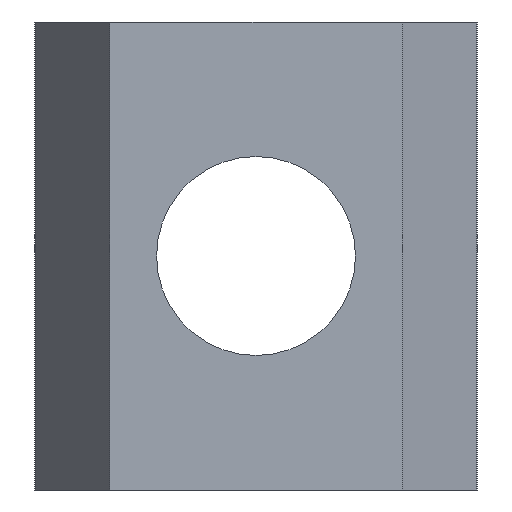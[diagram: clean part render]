
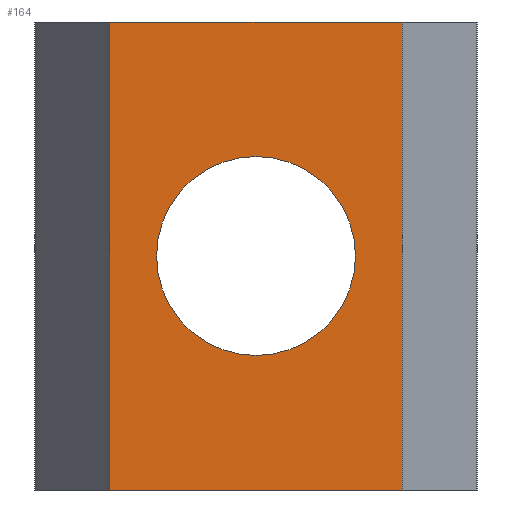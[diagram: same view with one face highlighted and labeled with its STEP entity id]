
A CAD part, front view. The second image highlights one B-rep face of the part: STEP entity #164.
In plain terms, the highlighted planar face has unit normal (0, -1, 0).
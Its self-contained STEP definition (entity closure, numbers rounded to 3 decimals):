
#1 = AXIS2_PLACEMENT_3D ( 'NONE', #614, #348, #24 ) ;
#13 = PLANE ( 'NONE',  #523 ) ;
#16 = CARTESIAN_POINT ( 'NONE',  ( -5., 0., 8. ) ) ;
#19 = CARTESIAN_POINT ( 'NONE',  ( 5., 0., 8. ) ) ;
#24 = DIRECTION ( 'NONE',  ( 0., 0., 1. ) ) ;
#50 = DIRECTION ( 'NONE',  ( 1., 0., 0. ) ) ;
#56 = CARTESIAN_POINT ( 'NONE',  ( 5., 0., -8. ) ) ;
#77 = EDGE_CURVE ( 'NONE', #396, #316, #262, .T. ) ;
#86 = CARTESIAN_POINT ( 'NONE',  ( 0., 0., 3.4 ) ) ;
#99 = CARTESIAN_POINT ( 'NONE',  ( -5., 0., -8. ) ) ;
#105 = EDGE_CURVE ( 'NONE', #516, #570, #250, .T. ) ;
#109 = EDGE_CURVE ( 'NONE', #570, #316, #247, .T. ) ;
#111 = EDGE_CURVE ( 'NONE', #516, #396, #243, .T. ) ;
#112 = CARTESIAN_POINT ( 'NONE',  ( -5., 0., 8. ) ) ;
#151 = EDGE_CURVE ( 'NONE', #460, #450, #215, .T. ) ;
#164 = ADVANCED_FACE ( 'NONE', ( #205, #211 ), #13, .F. ) ;
#172 = DIRECTION ( 'NONE',  ( 0., 0., 1. ) ) ;
#179 = CARTESIAN_POINT ( 'NONE',  ( -5., 0., 8. ) ) ;
#183 = CARTESIAN_POINT ( 'NONE',  ( -5., 0., 8. ) ) ;
#192 = CIRCLE ( 'NONE', #1, 3.4 ) ;
#205 = FACE_BOUND ( 'NONE', #520, .T. ) ;
#211 = FACE_OUTER_BOUND ( 'NONE', #298, .T. ) ;
#215 = CIRCLE ( 'NONE', #429, 3.4 ) ;
#226 = EDGE_CURVE ( 'NONE', #450, #460, #192, .T. ) ;
#240 = VECTOR ( 'NONE', #472, 1000. ) ;
#242 = VECTOR ( 'NONE', #438, 1000. ) ;
#243 = LINE ( 'NONE', #179, #240 ) ;
#246 = VECTOR ( 'NONE', #50, 1000. ) ;
#247 = LINE ( 'NONE', #402, #242 ) ;
#250 = LINE ( 'NONE', #16, #246 ) ;
#262 = LINE ( 'NONE', #99, #266 ) ;
#266 = VECTOR ( 'NONE', #426, 1000. ) ;
#289 = DIRECTION ( 'NONE',  ( 0., 1., 0. ) ) ;
#298 = EDGE_LOOP ( 'NONE', ( #337, #335, #373, #420 ) ) ;
#316 = VERTEX_POINT ( 'NONE', #56 ) ;
#335 = ORIENTED_EDGE ( 'NONE', *, *, #109, .F. ) ;
#337 = ORIENTED_EDGE ( 'NONE', *, *, #77, .T. ) ;
#346 = CARTESIAN_POINT ( 'NONE',  ( -5., 0., -8. ) ) ;
#348 = DIRECTION ( 'NONE',  ( 0., 1., 0. ) ) ;
#373 = ORIENTED_EDGE ( 'NONE', *, *, #105, .F. ) ;
#396 = VERTEX_POINT ( 'NONE', #346 ) ;
#402 = CARTESIAN_POINT ( 'NONE',  ( 5., 0., 8. ) ) ;
#420 = ORIENTED_EDGE ( 'NONE', *, *, #111, .T. ) ;
#426 = DIRECTION ( 'NONE',  ( 1., 0., 0. ) ) ;
#429 = AXIS2_PLACEMENT_3D ( 'NONE', #547, #289, #596 ) ;
#432 = DIRECTION ( 'NONE',  ( 0., 1., 0. ) ) ;
#436 = ORIENTED_EDGE ( 'NONE', *, *, #226, .T. ) ;
#438 = DIRECTION ( 'NONE',  ( 0., 0., -1. ) ) ;
#450 = VERTEX_POINT ( 'NONE', #616 ) ;
#460 = VERTEX_POINT ( 'NONE', #86 ) ;
#472 = DIRECTION ( 'NONE',  ( 0., 0., -1. ) ) ;
#504 = ORIENTED_EDGE ( 'NONE', *, *, #151, .T. ) ;
#516 = VERTEX_POINT ( 'NONE', #183 ) ;
#520 = EDGE_LOOP ( 'NONE', ( #504, #436 ) ) ;
#523 = AXIS2_PLACEMENT_3D ( 'NONE', #112, #432, #172 ) ;
#547 = CARTESIAN_POINT ( 'NONE',  ( 0., 0., 0. ) ) ;
#570 = VERTEX_POINT ( 'NONE', #19 ) ;
#596 = DIRECTION ( 'NONE',  ( 0., 0., 1. ) ) ;
#614 = CARTESIAN_POINT ( 'NONE',  ( 0., 0., 0. ) ) ;
#616 = CARTESIAN_POINT ( 'NONE',  ( 0., 0., -3.4 ) ) ;
